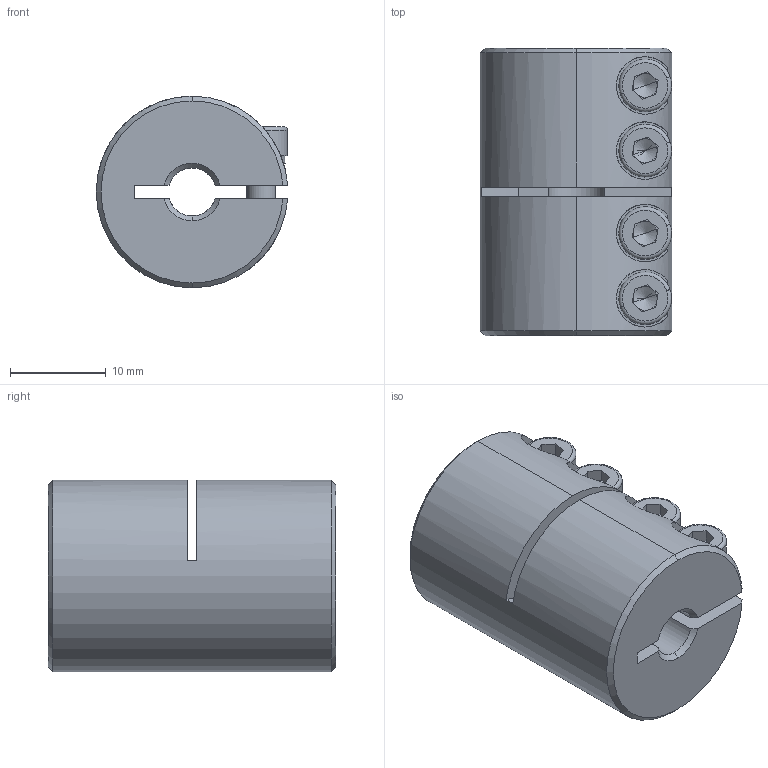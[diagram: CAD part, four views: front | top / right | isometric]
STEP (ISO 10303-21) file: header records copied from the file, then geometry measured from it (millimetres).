
FILE_DESCRIPTION (( 'STEP AP203' ), '1' );
FILE_NAME ('LL-B-D20L30-5-6.STEP', '2021-11-05T03:08:00', ( '' ), ( '' ), 'SwSTEP 2.0', 'SolidWorks 2018', '' );
FILE_SCHEMA (( 'CONFIG_CONTROL_DESIGN' ));
Length unit declared in the file: millimetre
Products named in the file (1): LL-B-D20L30-5-6
Bounding box: 19.98 x 30 x 20 mm (x, y, z)
Volume: 7974.7 mm3; surface area: 4534.6 mm2
Topology: 1 solids, 1 shells, 178 faces, 459 edges, 287 vertices
Faces by surface type: plane 89, cylinder 61, cone 20, torus 8
Entity records: 5821 total; most frequent: CARTESIAN_POINT 1349, DIRECTION 958, ORIENTED_EDGE 902, EDGE_CURVE 451, AXIS2_PLACEMENT_3D 368, VERTEX_POINT 287, LINE 222, VECTOR 222
